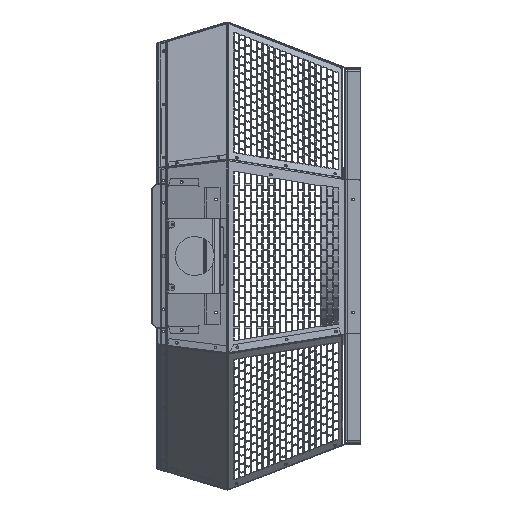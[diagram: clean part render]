
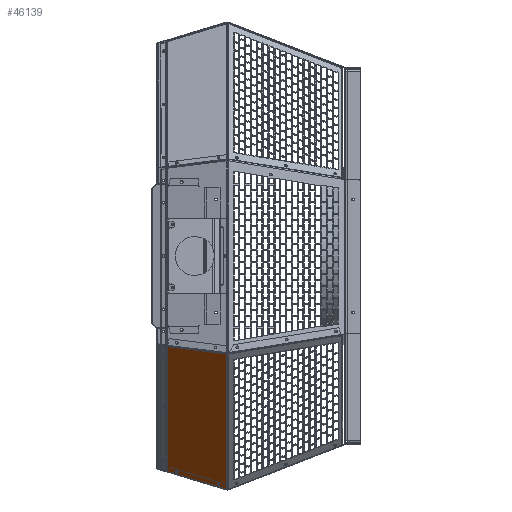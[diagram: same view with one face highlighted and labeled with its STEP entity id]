
A CAD part, left-side view. The second image highlights one B-rep face of the part: STEP entity #46139.
In plain terms, the highlighted planar face has unit normal (-0.677, 0.288, -0.677).
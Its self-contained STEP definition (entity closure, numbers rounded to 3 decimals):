
#18942 = CARTESIAN_POINT ( 'NONE',  ( -370.486, 0.845, -156.138 ) ) ;
#18945 = DIRECTION ( 'NONE',  ( 0.286, 0.951, 0.118 ) ) ;
#20799 = VECTOR ( 'NONE', #18945, 1000. ) ;
#20805 = LINE ( 'NONE', #18942, #20799 ) ;
#40407 = EDGE_CURVE ( 'NONE', #152274, #94018, #131878, .T. ) ;
#46139 = ADVANCED_FACE ( 'NONE', ( #124335, #124331, #124333 ), #139173, .F. ) ;
#47298 = CARTESIAN_POINT ( 'NONE',  ( -142.613, 96.024, -343.703 ) ) ;
#47305 = DIRECTION ( 'NONE',  ( 0.119, 0.951, 0.286 ) ) ;
#52079 = CARTESIAN_POINT ( 'NONE',  ( -142.638, 95.826, -343.763 ) ) ;
#61615 = EDGE_CURVE ( 'NONE', #100983, #166103, #192081, .T. ) ;
#64016 = EDGE_CURVE ( 'NONE', #149611, #149644, #197820, .T. ) ;
#64256 = EDGE_CURVE ( 'NONE', #94018, #149611, #198238, .T. ) ;
#65004 = EDGE_CURVE ( 'NONE', #152301, #149664, #206648, .T. ) ;
#65008 = EDGE_CURVE ( 'NONE', #149664, #149623, #206654, .T. ) ;
#65012 = EDGE_CURVE ( 'NONE', #149623, #152274, #206677, .T. ) ;
#65789 = EDGE_CURVE ( 'NONE', #149629, #147641, #212525, .T. ) ;
#65833 = EDGE_CURVE ( 'NONE', #149644, #149714, #212706, .T. ) ;
#65888 = EDGE_CURVE ( 'NONE', #166103, #100983, #212920, .T. ) ;
#65903 = EDGE_CURVE ( 'NONE', #147641, #149629, #212961, .T. ) ;
#73370 = CARTESIAN_POINT ( 'NONE',  ( -148.995, 79.161, -344.493 ) ) ;
#75408 = EDGE_CURVE ( 'NONE', #152301, #149714, #20805, .T. ) ;
#94018 = VERTEX_POINT ( 'NONE', #52079 ) ;
#100983 = VERTEX_POINT ( 'NONE', #73370 ) ;
#111546 = ORIENTED_EDGE ( 'NONE', *, *, #65903, .T. ) ;
#111549 = ORIENTED_EDGE ( 'NONE', *, *, #65789, .T. ) ;
#111557 = ORIENTED_EDGE ( 'NONE', *, *, #65888, .T. ) ;
#111562 = ORIENTED_EDGE ( 'NONE', *, *, #61615, .T. ) ;
#111570 = ORIENTED_EDGE ( 'NONE', *, *, #75408, .T. ) ;
#111576 = ORIENTED_EDGE ( 'NONE', *, *, #65833, .F. ) ;
#111584 = ORIENTED_EDGE ( 'NONE', *, *, #64016, .F. ) ;
#111590 = ORIENTED_EDGE ( 'NONE', *, *, #64256, .F. ) ;
#111597 = ORIENTED_EDGE ( 'NONE', *, *, #40407, .F. ) ;
#111603 = ORIENTED_EDGE ( 'NONE', *, *, #65012, .F. ) ;
#111610 = ORIENTED_EDGE ( 'NONE', *, *, #65008, .F. ) ;
#111615 = ORIENTED_EDGE ( 'NONE', *, *, #65004, .F. ) ;
#118781 = EDGE_LOOP ( 'NONE', ( #111546, #111549 ) ) ;
#118788 = EDGE_LOOP ( 'NONE', ( #111557, #111562 ) ) ;
#124331 = FACE_BOUND ( 'NONE', #118788, .T. ) ;
#124333 = FACE_OUTER_BOUND ( 'NONE', #128060, .T. ) ;
#124335 = FACE_BOUND ( 'NONE', #118781, .T. ) ;
#126927 = AXIS2_PLACEMENT_3D ( 'NONE', #139165, #139162, #139176 ) ;
#128060 = EDGE_LOOP ( 'NONE', ( #111570, #111576, #111584, #111590, #111597, #111603, #111610, #111615 ) ) ;
#130234 = CARTESIAN_POINT ( 'NONE',  ( -156.446, 16.623, -363.658 ) ) ;
#131878 = LINE ( 'NONE', #47298, #131889 ) ;
#131889 = VECTOR ( 'NONE', #47305, 1000. ) ;
#132527 = CARTESIAN_POINT ( 'NONE',  ( -341.55, 95.758, -144.696 ) ) ;
#132560 = CARTESIAN_POINT ( 'NONE',  ( -341.512, 95.884, -144.68 ) ) ;
#132569 = CARTESIAN_POINT ( 'NONE',  ( -370.191, 1.112, -156.319 ) ) ;
#132574 = CARTESIAN_POINT ( 'NONE',  ( -157.302, 12.601, -364.513 ) ) ;
#132605 = CARTESIAN_POINT ( 'NONE',  ( -370.053, 1.759, -156.182 ) ) ;
#132663 = CARTESIAN_POINT ( 'NONE',  ( -341.906, 95.758, -144.339 ) ) ;
#134811 = CARTESIAN_POINT ( 'NONE',  ( -154.477, 1.048, -372.259 ) ) ;
#134822 = CARTESIAN_POINT ( 'NONE',  ( -370.195, 1.81, -156.018 ) ) ;
#135700 = CARTESIAN_POINT ( 'NONE',  ( -148.139, 83.183, -343.639 ) ) ;
#139162 = DIRECTION ( 'NONE',  ( 0.677, -0.288, 0.677 ) ) ;
#139165 = CARTESIAN_POINT ( 'NONE',  ( -372.248, 0.326, -154.594 ) ) ;
#139173 = PLANE ( 'NONE',  #126927 ) ;
#139176 = DIRECTION ( 'NONE',  ( 0.204, 0.958, 0.203 ) ) ;
#147641 = VERTEX_POINT ( 'NONE', #130234 ) ;
#149611 = VERTEX_POINT ( 'NONE', #132560 ) ;
#149623 = VERTEX_POINT ( 'NONE', #132569 ) ;
#149629 = VERTEX_POINT ( 'NONE', #132574 ) ;
#149644 = VERTEX_POINT ( 'NONE', #132527 ) ;
#149664 = VERTEX_POINT ( 'NONE', #132605 ) ;
#149714 = VERTEX_POINT ( 'NONE', #132663 ) ;
#152274 = VERTEX_POINT ( 'NONE', #134811 ) ;
#152301 = VERTEX_POINT ( 'NONE', #134822 ) ;
#165569 = AXIS2_PLACEMENT_3D ( 'NONE', #190691, #190693, #190695 ) ;
#166103 = VERTEX_POINT ( 'NONE', #135700 ) ;
#166307 = AXIS2_PLACEMENT_3D ( 'NONE', #209081, #209082, #209083 ) ;
#166322 = AXIS2_PLACEMENT_3D ( 'NONE', #209346, #209347, #209348 ) ;
#166323 = AXIS2_PLACEMENT_3D ( 'NONE', #209407, #209409, #209411 ) ;
#190691 = CARTESIAN_POINT ( 'NONE',  ( -148.567, 81.172, -344.066 ) ) ;
#190693 = DIRECTION ( 'NONE',  ( 0.677, -0.288, 0.677 ) ) ;
#190695 = DIRECTION ( 'NONE',  ( 0.204, 0.958, 0.203 ) ) ;
#192081 = CIRCLE ( 'NONE', #165569, 2.1 ) ;
#197820 = LINE ( 'NONE', #198835, #197829 ) ;
#197829 = VECTOR ( 'NONE', #198851, 1000. ) ;
#198238 = LINE ( 'NONE', #199334, #198244 ) ;
#198244 = VECTOR ( 'NONE', #199336, 1000. ) ;
#198835 = CARTESIAN_POINT ( 'NONE',  ( -370.38, 0.012, -156.597 ) ) ;
#198851 = DIRECTION ( 'NONE',  ( -0.286, -0.951, -0.118 ) ) ;
#199334 = CARTESIAN_POINT ( 'NONE',  ( -351.893, 95.887, -134.288 ) ) ;
#199336 = DIRECTION ( 'NONE',  ( -0.707, 0., 0.707 ) ) ;
#206648 = LINE ( 'NONE', #207571, #206663 ) ;
#206654 = LINE ( 'NONE', #207573, #206674 ) ;
#206663 = VECTOR ( 'NONE', #207576, 1000. ) ;
#206674 = VECTOR ( 'NONE', #207580, 1000. ) ;
#206677 = LINE ( 'NONE', #207583, #206686 ) ;
#206686 = VECTOR ( 'NONE', #207584, 1000. ) ;
#207571 = CARTESIAN_POINT ( 'NONE',  ( -378.388, 4.749, -146.566 ) ) ;
#207573 = CARTESIAN_POINT ( 'NONE',  ( -370.461, -0.156, -156.589 ) ) ;
#207576 = DIRECTION ( 'NONE',  ( 0.638, -0.229, -0.736 ) ) ;
#207580 = DIRECTION ( 'NONE',  ( -0.204, -0.958, -0.203 ) ) ;
#207583 = CARTESIAN_POINT ( 'NONE',  ( -372.081, 1.112, -154.427 ) ) ;
#207584 = DIRECTION ( 'NONE',  ( 0.707, 0., -0.707 ) ) ;
#209081 = CARTESIAN_POINT ( 'NONE',  ( -156.874, 14.612, -364.086 ) ) ;
#209082 = DIRECTION ( 'NONE',  ( 0.677, -0.288, 0.677 ) ) ;
#209083 = DIRECTION ( 'NONE',  ( 0.204, 0.958, 0.203 ) ) ;
#209210 = CARTESIAN_POINT ( 'NONE',  ( -341.55, 95.758, -144.696 ) ) ;
#209211 = DIRECTION ( 'NONE',  ( -0.707, 0., 0.707 ) ) ;
#209346 = CARTESIAN_POINT ( 'NONE',  ( -148.567, 81.172, -344.066 ) ) ;
#209347 = DIRECTION ( 'NONE',  ( 0.677, -0.288, 0.677 ) ) ;
#209348 = DIRECTION ( 'NONE',  ( 0.204, 0.958, 0.203 ) ) ;
#209407 = CARTESIAN_POINT ( 'NONE',  ( -156.874, 14.612, -364.086 ) ) ;
#209409 = DIRECTION ( 'NONE',  ( 0.677, -0.288, 0.677 ) ) ;
#209411 = DIRECTION ( 'NONE',  ( 0.204, 0.958, 0.203 ) ) ;
#212525 = CIRCLE ( 'NONE', #166307, 2.1 ) ;
#212706 = LINE ( 'NONE', #209210, #212713 ) ;
#212713 = VECTOR ( 'NONE', #209211, 1000. ) ;
#212920 = CIRCLE ( 'NONE', #166322, 2.1 ) ;
#212961 = CIRCLE ( 'NONE', #166323, 2.1 ) ;
